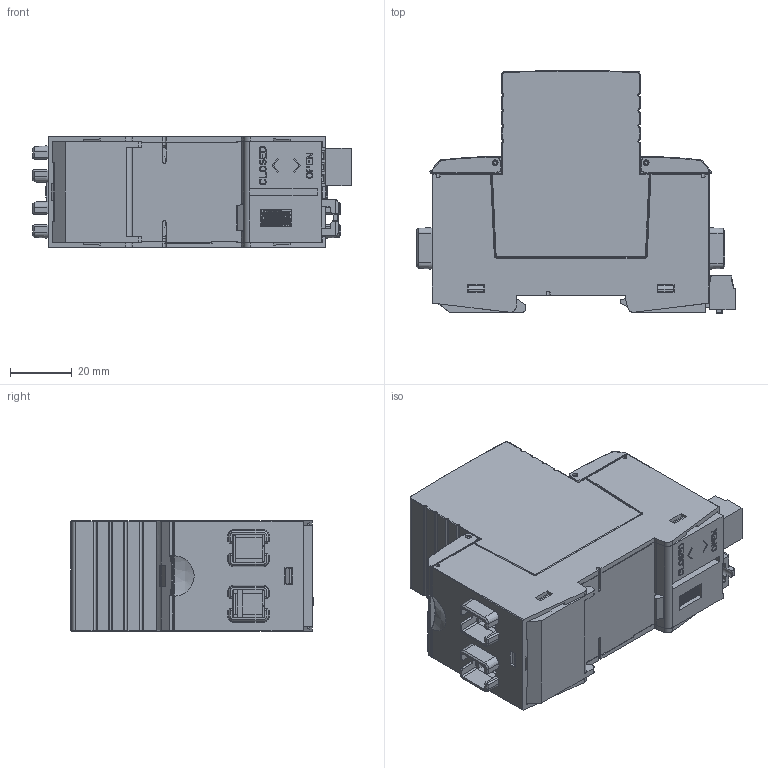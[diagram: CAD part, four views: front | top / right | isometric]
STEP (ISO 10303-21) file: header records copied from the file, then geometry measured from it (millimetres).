
FILE_DESCRIPTION(/* description */ ('Unknown'),/* implementation_level */ '2;1');
FILE_NAME(/* name */ 'SD25TSXXXL100',/* time_stamp */ '2023-04-10T11:53:13+08:00',/* author */ ('Unknown'),/* organization */ ('Unknown'),/* preprocessor_version */ 'ST-DEVELOPER v16.7',/* originating_system */ 'Solid Edge',/* authorisation */ 'Unknown');
FILE_SCHEMA (('AUTOMOTIVE_DESIGN {1 0 10303 214 3 1 1}'));
Products named in the file (19): ASM1000000063; ASM1000000062_oa_0; PRT1000000244; PRT1000000096; PRT1000000241; PRT1000000114; ASM1000000813_oa_1; ASM1000000065_oa_2; PRT1000000240; PRT1000000239; ASM1000000064_oa_3; PRT1000000238; ASM1000000020_oa_4; PRT1000000088; PRT1000000117; PRT1000001237; PRT1000004085; PRT1000000120; PRT1000001242
Assembly tree (22 placements, depth 4):
  ASM1000000063
    ASM1000000062_oa_0
      PRT1000000244
      PRT1000000096
      PRT1000000241  x2
      PRT1000000114  x2
      ASM1000000813_oa_1
    ASM1000000065_oa_2
      PRT1000000240
      PRT1000000239
      ASM1000000064_oa_3
        PRT1000000238
      ASM1000000020_oa_4
        PRT1000000088
      PRT1000000117
      PRT1000001237  x3
      PRT1000004085
    PRT1000000120
    PRT1000001242
Bounding box: 103.4 x 78.72 x 36 mm (x, y, z)
Volume: 61602.9 mm3; surface area: 96817.8 mm2
Topology: 17 solids, 17 shells, 4075 faces, 11171 edges, 7173 vertices
Faces by surface type: plane 2913, cylinder 832, torus 122, sphere 88, bspline 81, cone 39
Full cylindrical faces by diameter (mm): 1.5 x4, 1.6 x3, 1.8 x7, 2 x8, 2.2 x3, 2.5 x8, 2.8 x3, 2.9 x3, 5 x3, 6.8 x3, 7.5 x4, 9.5 x3
Entity records: 122383 total; most frequent: CARTESIAN_POINT 27504, ORIENTED_EDGE 20198, DIRECTION 18823, EDGE_CURVE 10099, LINE 8057, VECTOR 8057, VERTEX_POINT 6528, AXIS2_PLACEMENT_3D 5383
